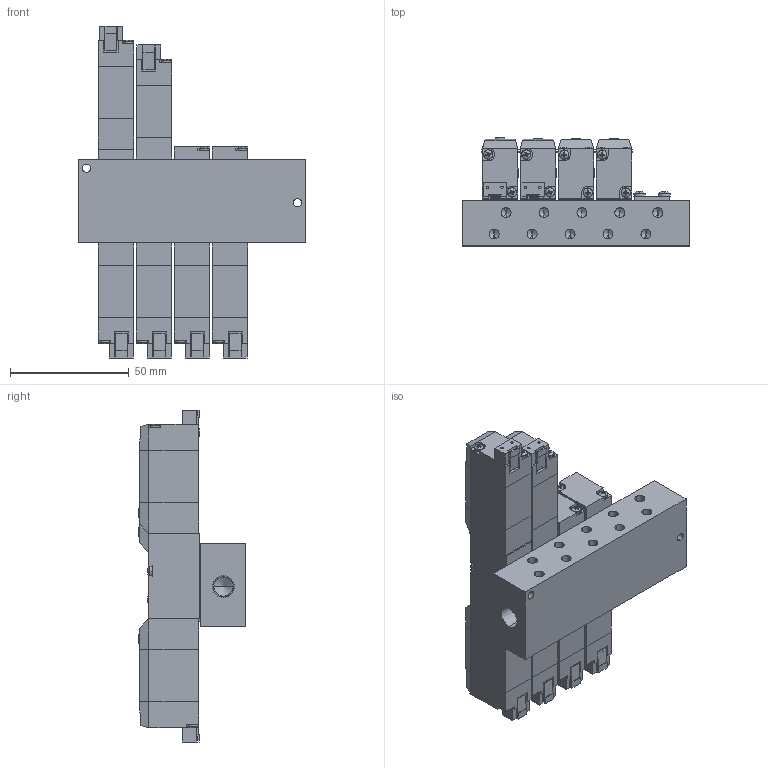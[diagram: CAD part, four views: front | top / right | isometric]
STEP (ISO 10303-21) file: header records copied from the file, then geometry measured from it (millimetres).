
FILE_DESCRIPTION (( 'STEP AP203' ), '1' );
FILE_NAME ('MFS#-PI5-M5-SP.STEP', '2016-02-04T03:34:20', ( 'Sam Lin' ), ( '' ), 'SwSTEP 2.0', 'SolidWorks 2013', '' );
FILE_SCHEMA (( 'CONFIG_CONTROL_DESIGN' ));
Length unit declared in the file: metre
Products named in the file (15): PI5-1; MFS#-PD5-M5; PC5-10; PC5-2; PI5-2; ISO 7045 - M2 x 10; PI5-3; PC5-5; MFS#-PI5-M5-SP; PC-MARK; PC5-6; PC5-7; MFS-02; PC5-8; ISO 7045 - M2.5 x 25
Assembly tree (68 placements, depth 2):
  MFS#-PI5-M5-SP
    MFS-02
    ISO 7045 - M2.5 x 25  x10
    MFS#-PD5-M5
    PC5-2  x2
    ISO 7045 - M2 x 10  x16
    PC5-5  x6
    PC-MARK  x4
    PC5-6  x6
    PC5-7  x6
    PC5-8  x6
    PI5-1
    PC5-10  x6
    PI5-2  x2
    PI5-3
Bounding box: 96 x 45.46 x 140 mm (x, y, z)
Volume: 205522.5 mm3; surface area: 76684 mm2
Topology: 98 solids, 98 shells, 2321 faces, 5728 edges, 3577 vertices
Faces by surface type: plane 1445, cylinder 376, cone 312, bspline 188
Entity records: 17048 total; most frequent: CARTESIAN_POINT 2968, DIRECTION 2347, ORIENTED_EDGE 2214, EDGE_CURVE 1107, AXIS2_PLACEMENT_3D 819, VERTEX_POINT 718, VECTOR 709, LINE 709
